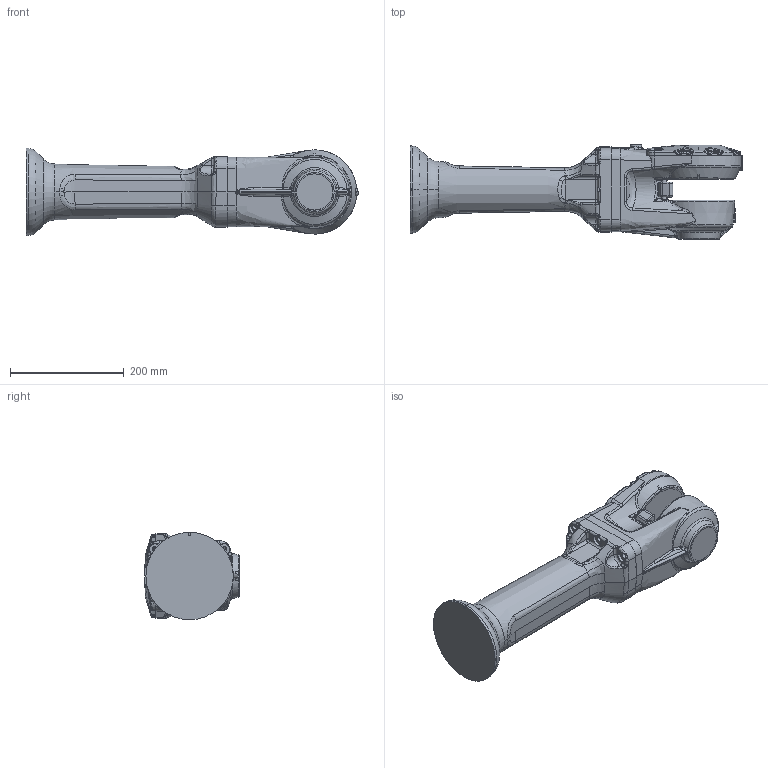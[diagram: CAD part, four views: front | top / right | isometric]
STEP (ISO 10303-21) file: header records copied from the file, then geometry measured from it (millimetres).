
FILE_DESCRIPTION (( 'STEP AP214' ), '1' );
FILE_NAME ('IRB2600_12_165_link4_CAD_01.STEP', '2012-09-17T05:56:42', ( 'ABB' ), ( 'ABB' ), 'SwSTEP 2.0', 'SolidWorks 2010', '' );
FILE_SCHEMA (( 'AUTOMOTIVE_DESIGN' ));
Length unit declared in the file: millimetre
Products named in the file (1): IRB2600_12_165_link4_CAD_01
Bounding box: 583 x 166.5 x 153.34 mm (x, y, z)
Volume: 6020764.5 mm3; surface area: 385476.6 mm2
Topology: 4 solids, 11 shells, 1044 faces, 2592 edges, 1533 vertices
Faces by surface type: bspline 451, cylinder 198, plane 180, cone 123, torus 88, sphere 4
Entity records: 67506 total; most frequent: CARTESIAN_POINT 35224, ORIENTED_EDGE 5088, DIRECTION 3368, EDGE_CURVE 2544, VERTEX_POINT 1533, AXIS2_PLACEMENT_3D 1445, EDGE_LOOP 1083, B_SPLINE_CURVE_WITH_KNOTS 1070
